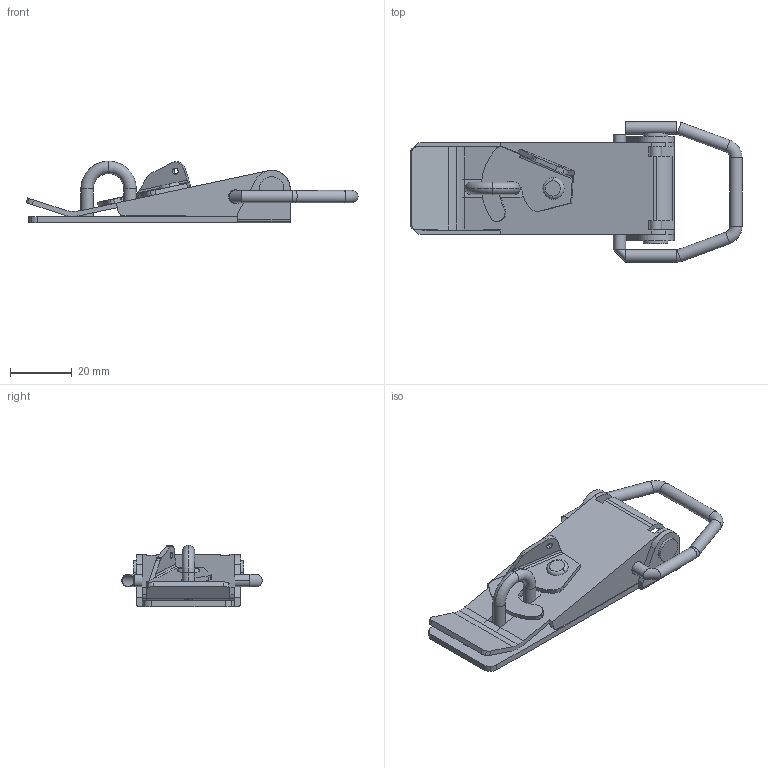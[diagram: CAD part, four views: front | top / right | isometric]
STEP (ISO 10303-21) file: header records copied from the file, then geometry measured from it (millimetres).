
FILE_DESCRIPTION((''),'2;1');
FILE_NAME('3011_.stp','2013-10-17T10:12:34',(''),(''),'Mechanical Desktop 2006','Mechanical Desktop 2006',', , ');
FILE_SCHEMA(('CONFIG_CONTROL_DESIGN'));
Length unit declared in the file: millimetre
Products named in the file (8): 3011_; NIT; HAKEN3010; ~TEIL1; TEIL3; ~TEIL2; TEIL4; GR.PL
Assembly tree (7 placements, depth 2):
  3011_
    NIT
    HAKEN3010
    ~TEIL1
    TEIL3
    ~TEIL2
    TEIL4
    GR.PL
Bounding box: 107.87 x 45.68 x 20 mm (x, y, z)
Volume: 14117.8 mm3; surface area: 17833.4 mm2
Topology: 7 solids, 7 shells, 201 faces, 537 edges, 346 vertices
Faces by surface type: cylinder 120, plane 67, torus 12, bspline 2
Full cylindrical faces by diameter (mm): 4 x6
Entity records: 6699 total; most frequent: CARTESIAN_POINT 1276, DIRECTION 1194, ORIENTED_EDGE 1042, EDGE_CURVE 521, AXIS2_PLACEMENT_3D 470, VERTEX_POINT 346, CIRCLE 255, VECTOR 254
